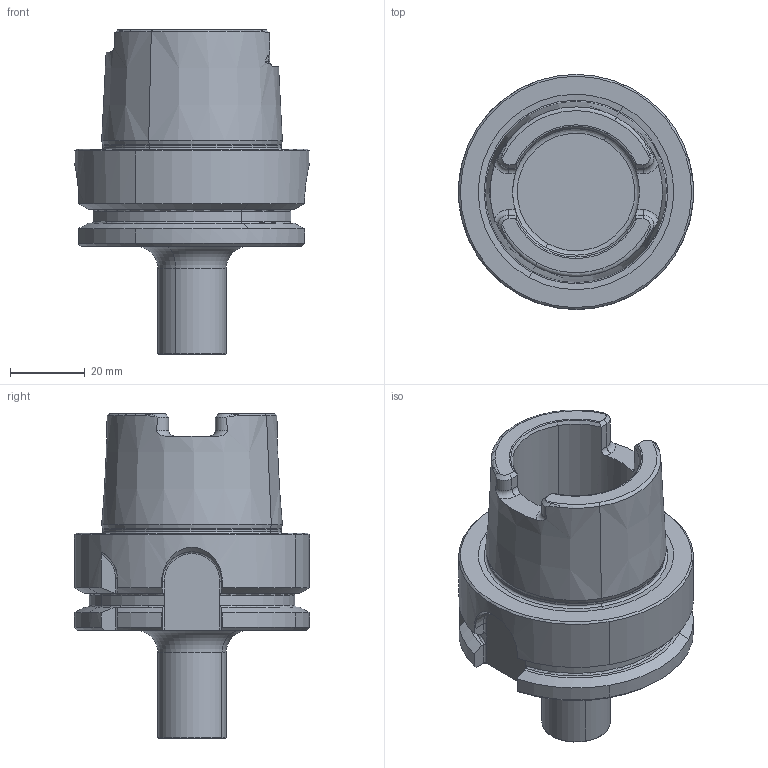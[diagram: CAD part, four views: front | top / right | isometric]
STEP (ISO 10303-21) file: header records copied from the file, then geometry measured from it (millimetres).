
FILE_DESCRIPTION(('CATIA V5 STEP','CAx-IF Rec.Pracs.--- Model Styling and Organization---1.2---2011-12-15'),'2;1');
FILE_NAME('I:\isr\design\admin8\users\wasweem_t\3106920 - L.stp','2014-05-25T12:53:54+00:00',('none'),('none'),'CATIA Version 5 Release 21 SP 5 (IN-10)','CATIA V5 STEP AP214','none');
FILE_SCHEMA(('AUTOMOTIVE_DESIGN { 1 0 10303 214 1 1 1 1 }'));
Length unit declared in the file: millimetre
Products named in the file (1): 620180961_0 Holder-Tool MM S-A-H055-HSK A63-T12
Bounding box: 62.99 x 63 x 87 mm (x, y, z)
Volume: 98826.4 mm3; surface area: 22362.1 mm2
Topology: 1 solids, 1 shells, 155 faces, 399 edges, 249 vertices
Faces by surface type: plane 45, cylinder 42, cone 35, torus 33
Entity records: 4708 total; most frequent: CARTESIAN_POINT 1374, ORIENTED_EDGE 798, DIRECTION 495, EDGE_CURVE 399, AXIS2_PLACEMENT_3D 270, VERTEX_POINT 249, CIRCLE 178, EDGE_LOOP 158
